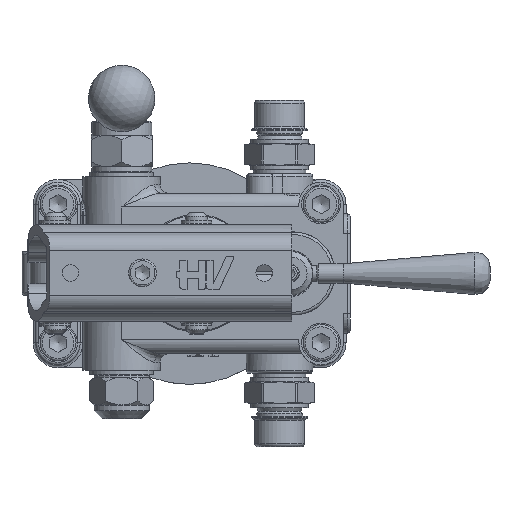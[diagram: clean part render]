
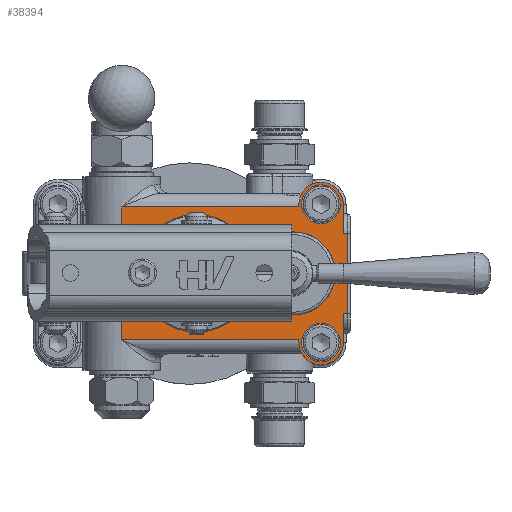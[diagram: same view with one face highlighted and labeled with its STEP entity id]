
A CAD part, top view. The second image highlights one B-rep face of the part: STEP entity #38394.
In plain terms, the highlighted planar face has unit normal (0, 0, 1).
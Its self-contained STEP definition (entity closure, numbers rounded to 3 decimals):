
#18581=CARTESIAN_POINT('',(42.333,43.127,43.));
#18582=VERTEX_POINT('',#18581);
#18583=CARTESIAN_POINT('',(59.,34.,43.));
#18584=DIRECTION('',(0.,0.,-1.0));
#18585=DIRECTION('',(0.877,-0.48,0.));
#18586=AXIS2_PLACEMENT_3D('',#18583,#18584,#18585);
#18587=CIRCLE('',#18586,19.002);
#18588=EDGE_CURVE('',#18582,#18582,#18587,.T.);
#36737=CARTESIAN_POINT('',(96.,58.,43.));
#36738=VERTEX_POINT('',#36737);
#36746=CARTESIAN_POINT('',(96.,59.,43.));
#36747=VERTEX_POINT('',#36746);
#36748=CARTESIAN_POINT('',(96.,58.,43.));
#36749=DIRECTION('',(0.0,1.0,0.0));
#36750=VECTOR('',#36749,1.);
#36751=LINE('',#36748,#36750);
#36752=EDGE_CURVE('',#36738,#36747,#36751,.T.);
#36768=CARTESIAN_POINT('',(96.0,10.0,43.));
#36769=VERTEX_POINT('',#36768);
#36779=CARTESIAN_POINT('',(96.0,9.,43.));
#36780=VERTEX_POINT('',#36779);
#36787=CARTESIAN_POINT('',(96.,9.,43.));
#36788=DIRECTION('',(0.0,1.0,0.0));
#36789=VECTOR('',#36788,1.);
#36790=LINE('',#36787,#36789);
#36791=EDGE_CURVE('',#36780,#36769,#36790,.T.);
#36950=CARTESIAN_POINT('',(32.,44.122,43.));
#36951=VERTEX_POINT('',#36950);
#37000=CARTESIAN_POINT('',(33.732,41.0,43.));
#37001=VERTEX_POINT('',#37000);
#37009=CARTESIAN_POINT('',(33.732,41.0,43.));
#37010=CARTESIAN_POINT('',(33.732,41.528,43.));
#37011=CARTESIAN_POINT('',(33.438,42.767,43.));
#37012=CARTESIAN_POINT('',(32.582,43.719,43.));
#37013=CARTESIAN_POINT('',(32.,44.122,43.));
#37014=B_SPLINE_CURVE_WITH_KNOTS('',3,(#37009,#37010,#37011,#37012,#37013),.UNSPECIFIED.,.F.,.U.,(4,1,4),(2.696,2.855,3.066),.UNSPECIFIED.);
#37015=EDGE_CURVE('',#37001,#36951,#37014,.T.);
#37027=CARTESIAN_POINT('',(33.732,27.,43.));
#37028=VERTEX_POINT('',#37027);
#37036=CARTESIAN_POINT('',(33.732,27.,43.));
#37037=DIRECTION('',(0.0,1.0,0.0));
#37038=VECTOR('',#37037,14.);
#37039=LINE('',#37036,#37038);
#37040=EDGE_CURVE('',#37028,#37001,#37039,.T.);
#37073=CARTESIAN_POINT('',(32.,23.878,43.));
#37074=VERTEX_POINT('',#37073);
#37082=CARTESIAN_POINT('',(32.,23.878,43.));
#37083=CARTESIAN_POINT('',(32.433,24.178,43.));
#37084=CARTESIAN_POINT('',(33.336,25.067,43.));
#37085=CARTESIAN_POINT('',(33.732,26.29,43.0));
#37086=CARTESIAN_POINT('',(33.732,27.,43.));
#37087=B_SPLINE_CURVE_WITH_KNOTS('',3,(#37082,#37083,#37084,#37085,#37086),.UNSPECIFIED.,.F.,.U.,(4,1,4),(2.696,2.854,3.065),.UNSPECIFIED.);
#37088=EDGE_CURVE('',#37074,#37028,#37087,.T.);
#37792=CARTESIAN_POINT('',(112.0,59.,43.));
#37793=VERTEX_POINT('',#37792);
#37800=CARTESIAN_POINT('',(112.,48.5,43.));
#37801=VERTEX_POINT('',#37800);
#37802=CARTESIAN_POINT('',(112.0,59.,43.));
#37803=DIRECTION('',(0.0,-1.0,0.0));
#37804=VECTOR('',#37803,10.5);
#37805=LINE('',#37802,#37804);
#37806=EDGE_CURVE('',#37793,#37801,#37805,.T.);
#37921=CARTESIAN_POINT('',(112.0,19.5,43.));
#37922=VERTEX_POINT('',#37921);
#37930=CARTESIAN_POINT('',(112.,9.,43.));
#37931=VERTEX_POINT('',#37930);
#37932=CARTESIAN_POINT('',(112.,19.5,43.));
#37933=DIRECTION('',(0.0,-1.0,0.0));
#37934=VECTOR('',#37933,10.5);
#37935=LINE('',#37932,#37934);
#37936=EDGE_CURVE('',#37922,#37931,#37935,.T.);
#38259=CARTESIAN_POINT('',(113.5,48.5,43.));
#38260=VERTEX_POINT('',#38259);
#38270=CARTESIAN_POINT('',(112.,48.5,43.));
#38271=DIRECTION('',(1.0,0.0,0.0));
#38272=VECTOR('',#38271,1.5);
#38273=LINE('',#38270,#38272);
#38274=EDGE_CURVE('',#37801,#38260,#38273,.T.);
#38279=CARTESIAN_POINT('',(104.,34.,43.));
#38280=DIRECTION('',(0.0,0.0,1.0));
#38281=DIRECTION('',(1.0,0.0,0.0));
#38282=AXIS2_PLACEMENT_3D('',#38279,#38280,#38281);
#38283=PLANE('',#38282);
#38284=CARTESIAN_POINT('',(113.5,19.5,43.));
#38285=VERTEX_POINT('',#38284);
#38286=CARTESIAN_POINT('',(113.5,48.5,43.));
#38287=DIRECTION('',(0.0,-1.0,0.0));
#38288=VECTOR('',#38287,29.);
#38289=LINE('',#38286,#38288);
#38290=EDGE_CURVE('',#38260,#38285,#38289,.T.);
#38291=ORIENTED_EDGE('',*,*,#38290,.F.);
#38292=ORIENTED_EDGE('',*,*,#38274,.F.);
#38293=ORIENTED_EDGE('',*,*,#37806,.F.);
#38294=CARTESIAN_POINT('',(104.,59.,43.));
#38295=DIRECTION('',(0.0,0.0,-1.0));
#38296=DIRECTION('',(1.0,0.0,0.0));
#38297=AXIS2_PLACEMENT_3D('',#38294,#38295,#38296);
#38298=CIRCLE('',#38297,8.0);
#38299=EDGE_CURVE('',#36747,#37793,#38298,.T.);
#38300=ORIENTED_EDGE('',*,*,#38299,.F.);
#38301=ORIENTED_EDGE('',*,*,#36752,.F.);
#38302=CARTESIAN_POINT('',(32.,58.,43.));
#38303=VERTEX_POINT('',#38302);
#38304=CARTESIAN_POINT('',(96.,58.,43.));
#38305=DIRECTION('',(-1.0,0.0,0.0));
#38306=VECTOR('',#38305,64.);
#38307=LINE('',#38304,#38306);
#38308=EDGE_CURVE('',#36738,#38303,#38307,.T.);
#38309=ORIENTED_EDGE('',*,*,#38308,.T.);
#38310=CARTESIAN_POINT('',(32.0,44.122,43.0));
#38311=DIRECTION('',(0.0,1.0,0.0));
#38312=VECTOR('',#38311,13.878);
#38313=LINE('',#38310,#38312);
#38314=EDGE_CURVE('',#36951,#38303,#38313,.T.);
#38315=ORIENTED_EDGE('',*,*,#38314,.F.);
#38316=ORIENTED_EDGE('',*,*,#37015,.F.);
#38317=ORIENTED_EDGE('',*,*,#37040,.F.);
#38318=ORIENTED_EDGE('',*,*,#37088,.F.);
#38319=CARTESIAN_POINT('',(32.,10.0,43.));
#38320=VERTEX_POINT('',#38319);
#38321=CARTESIAN_POINT('',(32.0,10.,43.0));
#38322=DIRECTION('',(0.0,1.0,0.0));
#38323=VECTOR('',#38322,13.878);
#38324=LINE('',#38321,#38323);
#38325=EDGE_CURVE('',#38320,#37074,#38324,.T.);
#38326=ORIENTED_EDGE('',*,*,#38325,.F.);
#38327=CARTESIAN_POINT('',(96.0,10.0,43.));
#38328=DIRECTION('',(-1.0,0.0,0.0));
#38329=VECTOR('',#38328,64.);
#38330=LINE('',#38327,#38329);
#38331=EDGE_CURVE('',#36769,#38320,#38330,.T.);
#38332=ORIENTED_EDGE('',*,*,#38331,.F.);
#38333=ORIENTED_EDGE('',*,*,#36791,.F.);
#38334=CARTESIAN_POINT('',(104.0,9.,43.));
#38335=DIRECTION('',(0.0,0.0,-1.0));
#38336=DIRECTION('',(-1.0,0.0,0.0));
#38337=AXIS2_PLACEMENT_3D('',#38334,#38335,#38336);
#38338=CIRCLE('',#38337,8.0);
#38339=EDGE_CURVE('',#37931,#36780,#38338,.T.);
#38340=ORIENTED_EDGE('',*,*,#38339,.F.);
#38341=ORIENTED_EDGE('',*,*,#37936,.F.);
#38342=CARTESIAN_POINT('',(112.0,19.5,43.));
#38343=DIRECTION('',(1.0,0.0,0.0));
#38344=VECTOR('',#38343,1.5);
#38345=LINE('',#38342,#38344);
#38346=EDGE_CURVE('',#37922,#38285,#38345,.T.);
#38347=ORIENTED_EDGE('',*,*,#38346,.T.);
#38348=EDGE_LOOP('',(#38291,#38292,#38293,#38300,#38301,#38309,#38315,#38316,#38317,#38318,#38326,#38332,#38333,#38340,#38341,#38347));
#38349=FACE_OUTER_BOUND('',#38348,.T.);
#38350=ORIENTED_EDGE('',*,*,#18588,.T.);
#38351=EDGE_LOOP('',(#38350));
#38352=FACE_BOUND('',#38351,.T.);
#38353=CARTESIAN_POINT('',(111.,59.,43.));
#38354=VERTEX_POINT('',#38353);
#38355=CARTESIAN_POINT('',(104.,59.,43.));
#38356=DIRECTION('',(0.0,0.0,-1.0));
#38357=DIRECTION('',(1.0,0.0,0.0));
#38358=AXIS2_PLACEMENT_3D('',#38355,#38356,#38357);
#38359=CIRCLE('',#38358,7.);
#38360=EDGE_CURVE('',#38354,#38354,#38359,.T.);
#38361=ORIENTED_EDGE('',*,*,#38360,.T.);
#38362=EDGE_LOOP('',(#38361));
#38363=FACE_BOUND('',#38362,.T.);
#38364=CARTESIAN_POINT('',(111.0,9.,43.));
#38365=VERTEX_POINT('',#38364);
#38366=CARTESIAN_POINT('',(104.0,9.,43.));
#38367=DIRECTION('',(0.0,0.0,-1.0));
#38368=DIRECTION('',(1.0,0.0,0.0));
#38369=AXIS2_PLACEMENT_3D('',#38366,#38367,#38368);
#38370=CIRCLE('',#38369,7.);
#38371=EDGE_CURVE('',#38365,#38365,#38370,.T.);
#38372=ORIENTED_EDGE('',*,*,#38371,.T.);
#38373=EDGE_LOOP('',(#38372));
#38374=FACE_BOUND('',#38373,.T.);
#38375=CARTESIAN_POINT('',(83.0,44.198,43.));
#38376=VERTEX_POINT('',#38375);
#38377=CARTESIAN_POINT('',(83.0,23.802,43.));
#38378=VERTEX_POINT('',#38377);
#38379=CARTESIAN_POINT('',(94.,34.0,43.));
#38380=DIRECTION('',(0.0,0.0,-1.0));
#38381=DIRECTION('',(-1.0,0.0,0.0));
#38382=AXIS2_PLACEMENT_3D('',#38379,#38380,#38381);
#38383=CIRCLE('',#38382,15.0);
#38384=EDGE_CURVE('',#38376,#38378,#38383,.T.);
#38385=ORIENTED_EDGE('',*,*,#38384,.T.);
#38386=CARTESIAN_POINT('',(83.0,23.802,43.));
#38387=DIRECTION('',(0.0,1.0,0.0));
#38388=VECTOR('',#38387,20.396);
#38389=LINE('',#38386,#38388);
#38390=EDGE_CURVE('',#38378,#38376,#38389,.T.);
#38391=ORIENTED_EDGE('',*,*,#38390,.T.);
#38392=EDGE_LOOP('',(#38385,#38391));
#38393=FACE_BOUND('',#38392,.T.);
#38394=ADVANCED_FACE('',(#38349,#38352,#38363,#38374,#38393),#38283,.T.);
